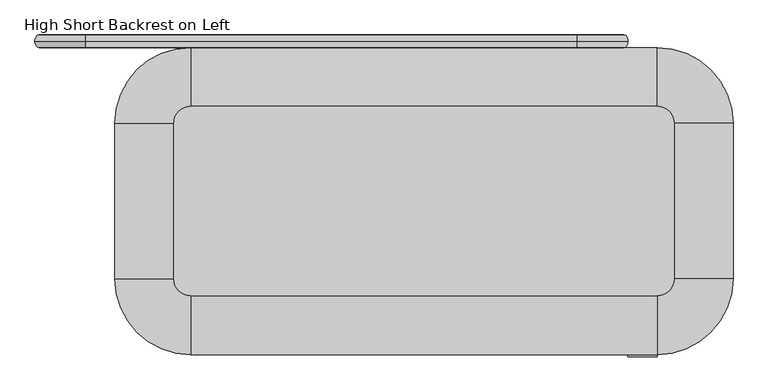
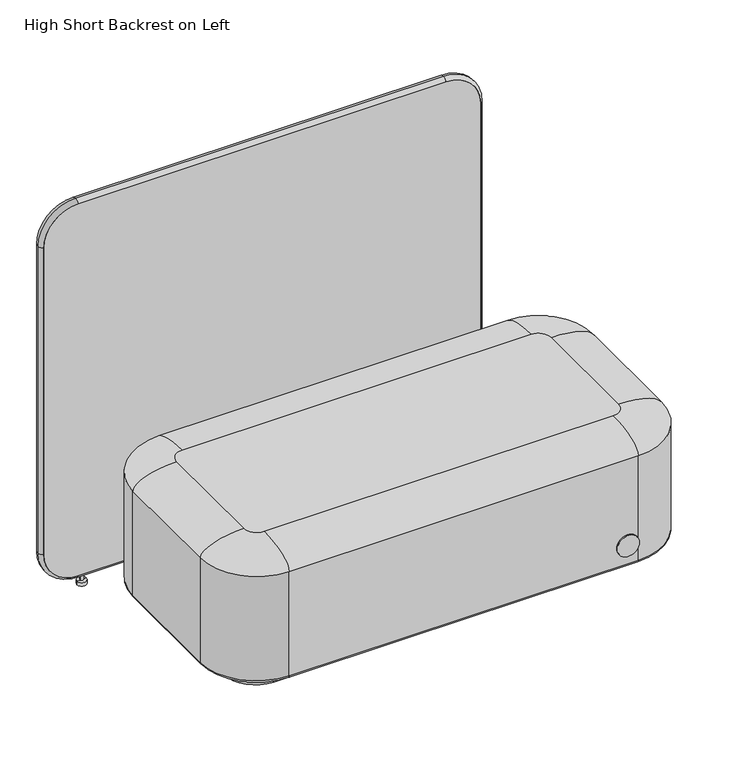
"""IFC4 building model written with IfcOpenShell, lengths in millimetres: furniture geometry, PODLounge  : High Short Backrest on Left."""

from ifc_helpers import new_model, si_unit, point, frame, frame_2d, origin, origin_with_axes, place, context, project, spatial, polyline, circle_curve, ellipse_curve, trimmed, segment, composite_curve, outline, extrude, source, transform, mapped, element, save
from ifc_brep_helpers import plane_surface, cylinder_surface, revolved_surface, extruded_surface, advanced_brep


def high_short_backrest_on_left_927d0b39(model_context):
    return source(origin(), model_context, "Body", "SolidModel", [
        advanced_brep(
        [(-769.9999916, 380.0, 12.0), (-800.0000084, 380.0, 12.0), (-790.0, 380.0, 12.0), (-780.0, 380.0, 12.0), (-790.0, 380.0, 37.4784241), (-780.0, 380.0, 37.4784241), (-785.0, 380.0, 37.4784241), (-785.0, 380.0, 0.0), (-800.0000084, 380.0, 0.0), (-769.9999916, 380.0, 0.0)],
        [
            (0, 1, circle_curve(frame((-785.0, 380.0, 12.0), z_axis=(0.0, 0.0, 1.0), x_axis=(-1.0, 0.0, 0.0)), 15.0000084)),
            (1, 2),
            (2, 3, circle_curve(frame((-785.0, 380.0, 12.0), z_axis=(0.0, 0.0, -1.0), x_axis=(-1.0, 0.0, 0.0)), 5.0)),
            (3, 0),
            (1, 0, circle_curve(frame((-785.0, 380.0, 12.0), z_axis=(0.0, 0.0, 1.0), x_axis=(-1.0, 0.0, 0.0)), 15.0000084)),
            (3, 2, circle_curve(frame((-785.0, 380.0, 12.0), z_axis=(0.0, 0.0, -1.0), x_axis=(-1.0, 0.0, 0.0)), 5.0)),
            (2, 4),
            (4, 5, circle_curve(frame((-785.0, 380.0, 37.4784241), z_axis=(0.0, 0.0, -1.0), x_axis=(-1.0, 0.0, 0.0)), 5.0)),
            (5, 3),
            (5, 4, circle_curve(frame((-785.0, 380.0, 37.4784241), z_axis=(0.0, 0.0, -1.0), x_axis=(-1.0, 0.0, 0.0)), 5.0)),
            (4, 6),
            (6, 5),
            (7, 8),
            (8, 9, circle_curve(frame((-785.0, 380.0, 0.0), z_axis=(0.0, 0.0, -1.0), x_axis=(-1.0, 0.0, 0.0)), 15.0000084)),
            (9, 7),
            (9, 8, circle_curve(frame((-785.0, 380.0, 0.0), z_axis=(0.0, 0.0, -1.0), x_axis=(-1.0, 0.0, 0.0)), 15.0000084)),
            (8, 1),
            (0, 9),
        ],
        [
            plane_surface(frame((-785.0, 380.0, 12.0), z_axis=(0.0, 0.0, 1.0), x_axis=(-1.0, 0.0, 0.0))),
            cylinder_surface(frame((-785.0, 380.0, 37.4784241), z_axis=(0.0, 0.0, -1.0), x_axis=(-1.0, 0.0, 0.0)), 5.0),
            plane_surface(frame((-785.0, 380.0, 37.4784241), z_axis=(0.0, 0.0, 1.0), x_axis=(-1.0, 0.0, 0.0))),
            plane_surface(frame((-785.0, 380.0, 0.0), z_axis=(0.0, 0.0, -1.0), x_axis=(-1.0, 0.0, 0.0))),
            cylinder_surface(frame((-785.0, 380.0, 37.4784241), z_axis=(0.0, 0.0, -1.0), x_axis=(-1.0, 0.0, 0.0)), 15.0000084),
        ],
        [
            (0, [[1, 2, 3, 4]]),
            (0, [[5, -4, 6, -2]]),
            (1, [[-3, 7, 8, 9]]),
            (1, [[-6, -9, 10, -7]]),
            (2, [[-8, 11, 12]]),
            (2, [[-10, -12, -11]]),
            (3, [[13, 14, 15]]),
            (3, [[-15, 16, -13]]),
            (4, [[-14, 17, -1, 18]]),
            (4, [[-16, -18, -5, -17]]),
        ],
    ),
        advanced_brep(
        [(329.9999916, 380.0, 12.0), (340.0, 380.0, 12.0), (350.0, 380.0, 12.0), (360.0000084, 380.0, 12.0), (340.0, 380.0, 37.4784241), (350.0, 380.0, 37.4784241), (345.0, 380.0, 37.4784241), (345.0, 380.0, 0.0), (329.9999916, 380.0, 0.0), (360.0000084, 380.0, 0.0)],
        [
            (0, 1),
            (1, 2, circle_curve(frame((345.0, 380.0, 12.0), z_axis=(0.0, 0.0, -1.0), x_axis=(1.0, 0.0, 0.0)), 5.0)),
            (2, 3),
            (3, 0, circle_curve(frame((345.0, 380.0, 12.0), z_axis=(0.0, 0.0, 1.0), x_axis=(1.0, 0.0, 0.0)), 15.0000084)),
            (2, 1, circle_curve(frame((345.0, 380.0, 12.0), z_axis=(0.0, 0.0, -1.0), x_axis=(1.0, 0.0, 0.0)), 5.0)),
            (0, 3, circle_curve(frame((345.0, 380.0, 12.0), z_axis=(0.0, 0.0, 1.0), x_axis=(1.0, 0.0, 0.0)), 15.0000084)),
            (1, 4),
            (4, 5, circle_curve(frame((345.0, 380.0, 37.4784241), z_axis=(0.0, 0.0, -1.0), x_axis=(1.0, 0.0, 0.0)), 5.0)),
            (5, 2),
            (5, 4, circle_curve(frame((345.0, 380.0, 37.4784241), z_axis=(0.0, 0.0, -1.0), x_axis=(1.0, 0.0, 0.0)), 5.0)),
            (4, 6),
            (6, 5),
            (7, 8),
            (8, 9, circle_curve(frame((345.0, 380.0, 0.0), z_axis=(0.0, 0.0, -1.0), x_axis=(1.0, 0.0, 0.0)), 15.0000084)),
            (9, 7),
            (9, 8, circle_curve(frame((345.0, 380.0, 0.0), z_axis=(0.0, 0.0, -1.0), x_axis=(1.0, 0.0, 0.0)), 15.0000084)),
            (8, 0),
            (3, 9),
        ],
        [
            plane_surface(frame((345.0, 380.0, 12.0), z_axis=(0.0, 0.0, 1.0), x_axis=(1.0, 0.0, 0.0))),
            cylinder_surface(frame((345.0, 380.0, 37.4784241), z_axis=(0.0, 0.0, -1.0), x_axis=(1.0, 0.0, 0.0)), 5.0),
            plane_surface(frame((345.0, 380.0, 37.4784241), z_axis=(0.0, 0.0, 1.0), x_axis=(1.0, 0.0, 0.0))),
            plane_surface(frame((345.0, 380.0, 0.0), z_axis=(0.0, 0.0, -1.0), x_axis=(1.0, 0.0, 0.0))),
            cylinder_surface(frame((345.0, 380.0, 37.4784241), z_axis=(0.0, 0.0, -1.0), x_axis=(1.0, 0.0, 0.0)), 15.0000084),
        ],
        [
            (0, [[1, 2, 3, 4]]),
            (0, [[-3, 5, -1, 6]]),
            (1, [[7, 8, 9, -2]]),
            (1, [[-9, 10, -7, -5]]),
            (2, [[11, 12, -8]]),
            (2, [[-12, -11, -10]]),
            (3, [[13, 14, 15]]),
            (3, [[-15, 16, -13]]),
            (4, [[17, -4, 18, -14]]),
            (4, [[-18, -6, -17, -16]]),
        ],
    ),
        advanced_brep(
        [(475.0, 395.0, 1180.0), (475.0, 365.0, 1180.0), (365.0, 365.0, 1290.0), (365.0, 395.0, 1290.0), (475.0, 395.0, 150.0), (475.0, 365.0, 150.0), (365.0, 395.0, 40.0), (365.0, 365.0, 40.0), (-805.0, 395.0, 40.0), (-805.0, 365.0, 40.0), (-915.0, 395.0, 150.0), (-915.0, 365.0, 150.0), (-915.0, 395.0, 1180.0), (-915.0, 365.0, 1180.0), (-805.0, 395.0, 1290.0), (-805.0, 365.0, 1290.0), (484.9992342, 379.8143612, 1180.0), (365.0, 379.8143612, 1299.9992342), (484.9992342, 379.8143612, 150.0), (365.0, 379.8143612, 30.0007658), (-805.0, 379.8143612, 30.0007658), (-924.9992342, 379.8143612, 150.0), (-924.9992342, 379.8143612, 1180.0), (-805.0, 379.8143612, 1299.9992342)],
        [
            (0, 1),
            (1, 2, circle_curve(frame((365.0, 365.0, 1180.0), z_axis=(0.0, -1.0, 0.0), x_axis=(0.0, 0.0, 1.0)), 110.0)),
            (2, 3),
            (3, 0, circle_curve(frame((365.0, 395.0, 1180.0), z_axis=(0.0, 1.0, 0.0), x_axis=(0.0, 0.0, 1.0)), 110.0)),
            (0, 4),
            (4, 5),
            (5, 1),
            (6, 7),
            (7, 5, circle_curve(frame((365.0, 365.0, 150.0), z_axis=(0.0, -1.0, 0.0), x_axis=(1.0, 0.0, 0.0)), 110.0)),
            (4, 6, circle_curve(frame((365.0, 395.0, 150.0), z_axis=(0.0, 1.0, 0.0), x_axis=(1.0, 0.0, 0.0)), 110.0)),
            (6, 8),
            (8, 9),
            (9, 7),
            (10, 11),
            (11, 9, circle_curve(frame((-805.0, 365.0, 150.0), z_axis=(0.0, -1.0, 0.0), x_axis=(0.0, 0.0, -1.0)), 110.0)),
            (8, 10, circle_curve(frame((-805.0, 395.0, 150.0), z_axis=(0.0, 1.0, 0.0), x_axis=(0.0, 0.0, -1.0)), 110.0)),
            (10, 12),
            (12, 13),
            (13, 11),
            (14, 15),
            (15, 13, circle_curve(frame((-805.0, 365.0, 1180.0), z_axis=(0.0, -1.0, 0.0), x_axis=(-1.0, 0.0, 0.0)), 110.0)),
            (12, 14, circle_curve(frame((-805.0, 395.0, 1180.0), z_axis=(0.0, 1.0, 0.0), x_axis=(-1.0, 0.0, 0.0)), 110.0)),
            (14, 3),
            (2, 15),
            (16, 0, ellipse_curve(frame((475.0, 380.0, 1180.0), z_axis=(0.0, 0.0, 1.0), x_axis=(0.0, 1.0, 0.0)), 15.0, 10.0)),
            (3, 17, ellipse_curve(frame((365.0, 380.0, 1290.0), z_axis=(1.0, 0.0, 0.0), x_axis=(0.0, 1.0, 0.0)), 15.0, 10.0)),
            (17, 16, circle_curve(frame((365.0, 379.8143612, 1180.0), z_axis=(0.0, 1.0, 0.0), x_axis=(0.0, 0.0, 1.0)), 119.9992342)),
            (1, 16, ellipse_curve(frame((475.0, 380.0, 1180.0), z_axis=(0.0, 0.0, 1.0), x_axis=(0.0, 1.0, 0.0)), 15.0, 10.0)),
            (17, 2, ellipse_curve(frame((365.0, 380.0, 1290.0), z_axis=(1.0, 0.0, 0.0), x_axis=(0.0, 1.0, 0.0)), 15.0, 10.0)),
            (16, 18),
            (18, 4, ellipse_curve(frame((475.0, 380.0, 150.0), z_axis=(0.0, 0.0, 1.0), x_axis=(0.0, 1.0, 0.0)), 15.0, 10.0)),
            (5, 18, ellipse_curve(frame((475.0, 380.0, 150.0), z_axis=(0.0, 0.0, 1.0), x_axis=(0.0, 1.0, 0.0)), 15.0, 10.0)),
            (19, 6, ellipse_curve(frame((365.0, 380.0, 40.0), z_axis=(1.0, 0.0, 0.0), x_axis=(0.0, 1.0, 0.0)), 15.0, 10.0)),
            (18, 19, circle_curve(frame((365.0, 379.8143612, 150.0), z_axis=(0.0, 1.0, 0.0), x_axis=(1.0, 0.0, 0.0)), 119.9992342)),
            (7, 19, ellipse_curve(frame((365.0, 380.0, 40.0), z_axis=(1.0, 0.0, 0.0), x_axis=(0.0, 1.0, 0.0)), 15.0, 10.0)),
            (19, 20),
            (20, 8, ellipse_curve(frame((-805.0, 380.0, 40.0), z_axis=(1.0, 0.0, 0.0), x_axis=(0.0, 1.0, 0.0)), 15.0, 10.0)),
            (9, 20, ellipse_curve(frame((-805.0, 380.0, 40.0), z_axis=(1.0, 0.0, 0.0), x_axis=(0.0, 1.0, 0.0)), 15.0, 10.0)),
            (21, 10, ellipse_curve(frame((-915.0, 380.0, 150.0), z_axis=(0.0, 0.0, -1.0), x_axis=(0.0, 1.0, 0.0)), 15.0, 10.0)),
            (20, 21, circle_curve(frame((-805.0, 379.8143612, 150.0), z_axis=(0.0, 1.0, 0.0), x_axis=(0.0, 0.0, -1.0)), 119.9992342)),
            (11, 21, ellipse_curve(frame((-915.0, 380.0, 150.0), z_axis=(0.0, 0.0, -1.0), x_axis=(0.0, 1.0, 0.0)), 15.0, 10.0)),
            (21, 22),
            (22, 12, ellipse_curve(frame((-915.0, 380.0, 1180.0), z_axis=(0.0, 0.0, -1.0), x_axis=(0.0, 1.0, 0.0)), 15.0, 10.0)),
            (13, 22, ellipse_curve(frame((-915.0, 380.0, 1180.0), z_axis=(0.0, 0.0, -1.0), x_axis=(0.0, 1.0, 0.0)), 15.0, 10.0)),
            (23, 14, ellipse_curve(frame((-805.0, 380.0, 1290.0), z_axis=(-1.0, 0.0, 0.0), x_axis=(0.0, 1.0, 0.0)), 15.0, 10.0)),
            (22, 23, circle_curve(frame((-805.0, 379.8143612, 1180.0), z_axis=(0.0, 1.0, 0.0), x_axis=(-1.0, 0.0, 0.0)), 119.9992342)),
            (15, 23, ellipse_curve(frame((-805.0, 380.0, 1290.0), z_axis=(-1.0, 0.0, 0.0), x_axis=(0.0, 1.0, 0.0)), 15.0, 10.0)),
            (23, 17),
        ],
        [
            revolved_surface(polyline([(365.0, 365.0, 1290.0), (365.0, 395.0, 1290.0)]), (365.0, 395.0, 1180.0), (0.0, -1.0, 0.0)),
            plane_surface(frame((475.0, 365.0, 1180.0), z_axis=(-1.0, 0.0, 0.0), x_axis=(0.0, 0.0, -1.0))),
            revolved_surface(polyline([(475.0, 365.0, 150.0), (475.0, 395.0, 150.0)]), (365.0, 395.0, 150.0), (0.0, -1.0, 0.0)),
            plane_surface(frame((365.0, 365.0, 40.0), z_axis=(0.0, 0.0, 1.0), x_axis=(-1.0, 0.0, 0.0))),
            revolved_surface(polyline([(-805.0, 365.0, 40.0), (-805.0, 395.0, 40.0)]), (-805.0, 395.0, 150.0), (0.0, -1.0, 0.0)),
            plane_surface(frame((-915.0, 365.0, 150.0), z_axis=(1.0, 0.0, 0.0), x_axis=(0.0, 0.0, 1.0))),
            revolved_surface(polyline([(-915.0, 365.0, 1180.0), (-915.0, 395.0, 1180.0)]), (-805.0, 395.0, 1180.0), (0.0, -1.0, 0.0)),
            plane_surface(frame((-805.0, 365.0, 1290.0), z_axis=(0.0, 0.0, -1.0), x_axis=(1.0, 0.0, 0.0))),
            revolved_surface(trimmed(ellipse_curve(frame((365.0, 380.0, 1290.0), z_axis=(1.0, 0.0, 0.0), x_axis=(0.0, 1.0, 0.0)), 15.0, 10.0), [point((365.0, 395.0, 1290.0))], [point((365.0, 379.8143612, 1299.9992342))], True, "CARTESIAN"), (365.0, 395.0, 1180.0), (0.0, -1.0, 0.0)),
            revolved_surface(trimmed(ellipse_curve(frame((365.0, 380.0, 1290.0), z_axis=(1.0, 0.0, 0.0), x_axis=(0.0, 1.0, 0.0)), 15.0, 10.0), [point((365.0, 379.8143612, 1299.9992342))], [point((365.0, 365.0, 1290.0))], True, "CARTESIAN"), (365.0, 395.0, 1180.0), (0.0, -1.0, 0.0)),
            extruded_surface(trimmed(ellipse_curve(frame((475.0, 380.0, 1180.0), z_axis=(0.0, 0.0, -1.0), x_axis=(0.0, 1.0, 0.0)), 15.0, 10.0), [point((475.0, 395.0, 1180.0))], [point((484.9992342, 379.8143612, 1180.0))], True, "CARTESIAN"), (0.0, 0.0, -1030.0), 1030.0),
            extruded_surface(trimmed(ellipse_curve(frame((475.0, 380.0, 1180.0), z_axis=(0.0, 0.0, -1.0), x_axis=(0.0, 1.0, 0.0)), 15.0, 10.0), [point((484.9992342, 379.8143612, 1180.0))], [point((475.0, 365.0, 1180.0))], True, "CARTESIAN"), (0.0, 0.0, -1030.0), 1030.0),
            revolved_surface(trimmed(ellipse_curve(frame((475.0, 380.0, 150.0), z_axis=(0.0, 0.0, -1.0), x_axis=(0.0, 1.0, 0.0)), 15.0, 10.0), [point((475.0, 395.0, 150.0))], [point((484.9992342, 379.8143612, 150.0))], True, "CARTESIAN"), (365.0, 395.0, 150.0), (0.0, -1.0, 0.0)),
            revolved_surface(trimmed(ellipse_curve(frame((475.0, 380.0, 150.0), z_axis=(0.0, 0.0, -1.0), x_axis=(0.0, 1.0, 0.0)), 15.0, 10.0), [point((484.9992342, 379.8143612, 150.0))], [point((475.0, 365.0, 150.0))], True, "CARTESIAN"), (365.0, 395.0, 150.0), (0.0, -1.0, 0.0)),
            extruded_surface(trimmed(ellipse_curve(frame((365.0, 380.0, 40.0), z_axis=(-1.0, 0.0, 0.0), x_axis=(0.0, 1.0, 0.0)), 15.0, 10.0), [point((365.0, 395.0, 40.0))], [point((365.0, 379.8143612, 30.0007658))], True, "CARTESIAN"), (-1170.0, 0.0, 0.0), 1170.0),
            extruded_surface(trimmed(ellipse_curve(frame((365.0, 380.0, 40.0), z_axis=(-1.0, 0.0, 0.0), x_axis=(0.0, 1.0, 0.0)), 15.0, 10.0), [point((365.0, 379.8143612, 30.0007658))], [point((365.0, 365.0, 40.0))], True, "CARTESIAN"), (-1170.0, 0.0, 0.0), 1170.0),
            revolved_surface(trimmed(ellipse_curve(frame((-805.0, 380.0, 40.0), z_axis=(-1.0, 0.0, 0.0), x_axis=(0.0, 1.0, 0.0)), 15.0, 10.0), [point((-805.0, 395.0, 40.0))], [point((-805.0, 379.8143612, 30.0007658))], True, "CARTESIAN"), (-805.0, 395.0, 150.0), (0.0, -1.0, 0.0)),
            revolved_surface(trimmed(ellipse_curve(frame((-805.0, 380.0, 40.0), z_axis=(-1.0, 0.0, 0.0), x_axis=(0.0, 1.0, 0.0)), 15.0, 10.0), [point((-805.0, 379.8143612, 30.0007658))], [point((-805.0, 365.0, 40.0))], True, "CARTESIAN"), (-805.0, 395.0, 150.0), (0.0, -1.0, 0.0)),
            extruded_surface(trimmed(ellipse_curve(frame((-915.0, 380.0, 150.0), z_axis=(0.0, 0.0, 1.0), x_axis=(0.0, 1.0, 0.0)), 15.0, 10.0), [point((-915.0, 395.0, 150.0))], [point((-924.9992342, 379.8143612, 150.0))], True, "CARTESIAN"), (0.0, 0.0, 1030.0), 1030.0),
            extruded_surface(trimmed(ellipse_curve(frame((-915.0, 380.0, 150.0), z_axis=(0.0, 0.0, 1.0), x_axis=(0.0, 1.0, 0.0)), 15.0, 10.0), [point((-924.9992342, 379.8143612, 150.0))], [point((-915.0, 365.0, 150.0))], True, "CARTESIAN"), (0.0, 0.0, 1030.0), 1030.0),
            revolved_surface(trimmed(ellipse_curve(frame((-915.0, 380.0, 1180.0), z_axis=(0.0, 0.0, 1.0), x_axis=(0.0, 1.0, 0.0)), 15.0, 10.0), [point((-915.0, 395.0, 1180.0))], [point((-924.9992342, 379.8143612, 1180.0))], True, "CARTESIAN"), (-805.0, 395.0, 1180.0), (0.0, -1.0, 0.0)),
            revolved_surface(trimmed(ellipse_curve(frame((-915.0, 380.0, 1180.0), z_axis=(0.0, 0.0, 1.0), x_axis=(0.0, 1.0, 0.0)), 15.0, 10.0), [point((-924.9992342, 379.8143612, 1180.0))], [point((-915.0, 365.0, 1180.0))], True, "CARTESIAN"), (-805.0, 395.0, 1180.0), (0.0, -1.0, 0.0)),
            extruded_surface(trimmed(ellipse_curve(frame((-805.0, 380.0, 1290.0), z_axis=(1.0, 0.0, 0.0), x_axis=(0.0, 1.0, 0.0)), 15.0, 10.0), [point((-805.0, 395.0, 1290.0))], [point((-805.0, 379.8143612, 1299.9992342))], True, "CARTESIAN"), (1170.0, 0.0, 0.0), 1170.0),
            extruded_surface(trimmed(ellipse_curve(frame((-805.0, 380.0, 1290.0), z_axis=(1.0, 0.0, 0.0), x_axis=(0.0, 1.0, 0.0)), 15.0, 10.0), [point((-805.0, 379.8143612, 1299.9992342))], [point((-805.0, 365.0, 1290.0))], True, "CARTESIAN"), (1170.0, 0.0, 0.0), 1170.0),
        ],
        [
            (0, [[1, 2, 3, 4]]),
            (1, [[5, 6, 7, -1]]),
            (2, [[8, 9, -6, 10]]),
            (3, [[11, 12, 13, -8]]),
            (4, [[14, 15, -12, 16]]),
            (5, [[17, 18, 19, -14]]),
            (6, [[20, 21, -18, 22]]),
            (7, [[23, -3, 24, -20]]),
            (8, [[25, -4, 26, 27]]),
            (9, [[28, -27, 29, -2]]),
            (10, [[30, 31, -5, -25]]),
            (11, [[-7, 32, -30, -28]]),
            (12, [[33, -10, -31, 34]]),
            (13, [[35, -34, -32, -9]]),
            (14, [[36, 37, -11, -33]]),
            (15, [[-13, 38, -36, -35]]),
            (16, [[39, -16, -37, 40]]),
            (17, [[41, -40, -38, -15]]),
            (18, [[42, 43, -17, -39]]),
            (19, [[-19, 44, -42, -41]]),
            (20, [[45, -22, -43, 46]]),
            (21, [[47, -46, -44, -21]]),
            (22, [[48, -26, -23, -45]]),
            (23, [[-24, -29, -48, -47]]),
        ],
    ),
        extrude(outline(composite_curve([segment(polyline([(1290.0, 365.0), (1290.0, -805.0)]), True, "CONTINUOUS"), segment(trimmed(circle_curve(frame_2d((1180.0, -805.0)), 110.0), [point((1290.0, -805.0))], [point((1180.0, -915.0))], False, "CARTESIAN"), True, "CONTINUOUS"), segment(polyline([(1180.0, -915.0), (150.0, -915.0)]), True, "CONTINUOUS"), segment(trimmed(circle_curve(frame_2d((150.0, -805.0)), 110.0), [point((150.0, -915.0))], [point((40.0, -805.0))], False, "CARTESIAN"), True, "CONTINUOUS"), segment(polyline([(40.0, -805.0), (40.0, 365.0)]), True, "CONTINUOUS"), segment(trimmed(circle_curve(frame_2d((150.0, 365.0)), 110.0), [point((40.0, 365.0))], [point((150.0, 475.0))], False, "CARTESIAN"), True, "CONTINUOUS"), segment(polyline([(150.0, 475.0), (1180.0, 475.0)]), True, "CONTINUOUS"), segment(trimmed(circle_curve(frame_2d((1180.0, 365.0)), 110.0), [point((1180.0, 475.0))], [point((1290.0, 365.0))], False, "CARTESIAN"), True, "CONTINUOUS")], self_intersect=False)), frame((0.0, 365.0, 0.0), z_axis=(0.0, 1.0, 0.0), x_axis=(0.0, 0.0, 1.0)), (0.0, 0.0, 1.0), 30.0),
        advanced_brep(
        [(-555.0, 225.0, 460.0), (-595.0, 185.0, 460.0), (-595.0, -185.0, 460.0), (-555.0, -225.0, 460.0), (555.0, -225.0, 460.0), (595.0, -185.0, 460.0), (595.0, 185.0, 460.0), (555.0, 225.0, 460.0), (-725.0, 185.0, 50.0), (-555.0, 355.0, 50.0), (555.0, 355.0, 50.0), (725.0, 185.0, 50.0), (725.0, -185.0, 50.0), (555.0, -355.0, 50.0), (-555.0, -355.0, 50.0), (-725.0, -185.0, 50.0), (555.0, -365.0, 410.0), (555.0, -365.0, 60.0), (735.0, -185.0, 60.0), (735.0, -185.0, 410.0), (735.0, 185.0, 60.0), (735.0, 185.0, 410.0), (555.0, 365.0, 60.0), (555.0, 365.0, 410.0), (-555.0, 365.0, 60.0), (-555.0, 365.0, 410.0), (-735.0, 185.0, 410.0), (-735.0, 185.0, 60.0), (-735.0, -185.0, 60.0), (-735.0, -185.0, 410.0), (-555.0, -365.0, 410.0), (-555.0, -365.0, 60.0)],
        [
            (0, 1, circle_curve(frame((-555.0, 185.0, 460.0), z_axis=(0.0, 0.0, 1.0), x_axis=(0.0, 1.0, 0.0)), 40.0)),
            (1, 2),
            (2, 3, circle_curve(frame((-555.0, -185.0, 460.0), z_axis=(0.0, 0.0, 1.0), x_axis=(-1.0, 0.0, 0.0)), 40.0)),
            (3, 4),
            (4, 5, circle_curve(frame((555.0, -185.0, 460.0), z_axis=(0.0, 0.0, 1.0), x_axis=(0.0, -1.0, 0.0)), 40.0)),
            (5, 6),
            (6, 7, circle_curve(frame((555.0, 185.0, 460.0), z_axis=(0.0, 0.0, 1.0), x_axis=(1.0, 0.0, 0.0)), 40.0)),
            (7, 0),
            (8, 9, circle_curve(frame((-555.0, 185.0, 50.0), z_axis=(0.0, 0.0, -1.0), x_axis=(0.0, 1.0, 0.0)), 170.0)),
            (9, 10),
            (10, 11, circle_curve(frame((555.0, 185.0, 50.0), z_axis=(0.0, 0.0, -1.0), x_axis=(1.0, 0.0, 0.0)), 170.0)),
            (11, 12),
            (12, 13, circle_curve(frame((555.0, -185.0, 50.0), z_axis=(0.0, 0.0, -1.0), x_axis=(0.0, -1.0, 0.0)), 170.0)),
            (13, 14),
            (14, 15, circle_curve(frame((-555.0, -185.0, 50.0), z_axis=(0.0, 0.0, -1.0), x_axis=(-1.0, 0.0, 0.0)), 170.0)),
            (15, 8),
            (16, 17),
            (17, 18, circle_curve(frame((555.0, -185.0, 60.0), z_axis=(0.0, 0.0, 1.0), x_axis=(1.0, 0.0, 0.0)), 180.0)),
            (18, 19),
            (19, 16, circle_curve(frame((555.0, -185.0, 410.0), z_axis=(0.0, 0.0, -1.0), x_axis=(1.0, 0.0, 0.0)), 180.0)),
            (18, 20),
            (20, 21),
            (21, 19),
            (20, 22, circle_curve(frame((555.0, 185.0, 60.0), z_axis=(0.0, 0.0, 1.0), x_axis=(1.0, 0.0, 0.0)), 180.0)),
            (22, 23),
            (23, 21, circle_curve(frame((555.0, 185.0, 410.0), z_axis=(0.0, 0.0, -1.0), x_axis=(1.0, 0.0, 0.0)), 180.0)),
            (22, 24),
            (24, 25),
            (25, 23),
            (26, 27),
            (27, 28),
            (28, 29),
            (29, 26),
            (16, 30),
            (30, 31),
            (31, 17),
            (26, 25, circle_curve(frame((-555.0, 185.0, 410.0), z_axis=(0.0, 0.0, -1.0), x_axis=(1.0, 0.0, 0.0)), 180.0)),
            (24, 27, circle_curve(frame((-555.0, 185.0, 60.0), z_axis=(0.0, 0.0, 1.0), x_axis=(1.0, 0.0, 0.0)), 180.0)),
            (30, 29, circle_curve(frame((-555.0, -185.0, 410.0), z_axis=(0.0, 0.0, -1.0), x_axis=(1.0, 0.0, 0.0)), 180.0)),
            (28, 31, circle_curve(frame((-555.0, -185.0, 60.0), z_axis=(0.0, 0.0, 1.0), x_axis=(1.0, 0.0, 0.0)), 180.0)),
            (26, 1, ellipse_curve(frame((-595.0, 185.0, 410.0), z_axis=(0.0, 1.0, 0.0), x_axis=(-1.0, 0.0, 0.0)), 140.0, 50.0)),
            (0, 25, ellipse_curve(frame((-555.0, 225.0, 410.0), z_axis=(-1.0, 0.0, 0.0), x_axis=(0.0, 1.0, 0.0)), 140.0, 50.0)),
            (29, 2, ellipse_curve(frame((-595.0, -185.0, 410.0), z_axis=(0.0, 1.0, 0.0), x_axis=(-1.0, 0.0, 0.0)), 140.0, 50.0)),
            (30, 3, ellipse_curve(frame((-555.0, -225.0, 410.0), z_axis=(-1.0, 0.0, 0.0), x_axis=(0.0, -1.0, 0.0)), 140.0, 50.0)),
            (16, 4, ellipse_curve(frame((555.0, -225.0, 410.0), z_axis=(-1.0, 0.0, 0.0), x_axis=(0.0, -1.0, 0.0)), 140.0, 50.0)),
            (19, 5, ellipse_curve(frame((595.0, -185.0, 410.0), z_axis=(0.0, -1.0, 0.0), x_axis=(1.0, 0.0, 0.0)), 140.0, 50.0)),
            (21, 6, ellipse_curve(frame((595.0, 185.0, 410.0), z_axis=(0.0, -1.0, 0.0), x_axis=(1.0, 0.0, 0.0)), 140.0, 50.0)),
            (23, 7, ellipse_curve(frame((555.0, 225.0, 410.0), z_axis=(1.0, 0.0, 0.0), x_axis=(0.0, 1.0, 0.0)), 140.0, 50.0)),
            (8, 27, circle_curve(frame((-725.0, 185.0, 60.0), z_axis=(0.0, 1.0, 0.0), x_axis=(1.0, 0.0, 0.0)), 10.0)),
            (24, 9, circle_curve(frame((-555.0, 355.0, 60.0), z_axis=(-1.0, 0.0, 0.0), x_axis=(0.0, -1.0, 0.0)), 10.0)),
            (15, 28, circle_curve(frame((-725.0, -185.0, 60.0), z_axis=(0.0, 1.0, 0.0), x_axis=(1.0, 0.0, 0.0)), 10.0)),
            (14, 31, circle_curve(frame((-555.0, -355.0, 60.0), z_axis=(-1.0, 0.0, 0.0), x_axis=(0.0, 1.0, 0.0)), 10.0)),
            (13, 17, circle_curve(frame((555.0, -355.0, 60.0), z_axis=(-1.0, 0.0, 0.0), x_axis=(0.0, 1.0, 0.0)), 10.0)),
            (12, 18, circle_curve(frame((725.0, -185.0, 60.0), z_axis=(0.0, -1.0, 0.0), x_axis=(-1.0, 0.0, 0.0)), 10.0)),
            (11, 20, circle_curve(frame((725.0, 185.0, 60.0), z_axis=(0.0, -1.0, 0.0), x_axis=(-1.0, 0.0, 0.0)), 10.0)),
            (10, 22, circle_curve(frame((555.0, 355.0, 60.0), z_axis=(1.0, 0.0, 0.0), x_axis=(0.0, -1.0, 0.0)), 10.0)),
        ],
        [
            plane_surface(frame((735.0, -185.0, 460.0), z_axis=(0.0, 0.0, 1.0), x_axis=(0.0, 1.0, 0.0))),
            plane_surface(frame((735.0, -185.0, 50.0), z_axis=(0.0, 0.0, -1.0), x_axis=(0.0, -1.0, 0.0))),
            cylinder_surface(frame((555.0, -185.0, 50.0), z_axis=(0.0, 0.0, 1.0), x_axis=(1.0, 0.0, 0.0)), 180.0),
            plane_surface(frame((735.0, -185.0, 460.0), z_axis=(1.0, 0.0, 0.0), x_axis=(0.0, 0.0, -1.0))),
            cylinder_surface(frame((555.0, 185.0, 50.0), z_axis=(0.0, 0.0, 1.0), x_axis=(1.0, 0.0, 0.0)), 180.0),
            plane_surface(frame((555.0, 365.0, 460.0), z_axis=(0.0, 1.0, 0.0), x_axis=(0.0, 0.0, -1.0))),
            plane_surface(frame((-735.0, 185.0, 460.0), z_axis=(-1.0, 0.0, 0.0), x_axis=(0.0, 0.0, -1.0))),
            plane_surface(frame((-555.0, -365.0, 460.0), z_axis=(0.0, -1.0, 0.0), x_axis=(0.0, 0.0, -1.0))),
            cylinder_surface(frame((-555.0, 185.0, 50.0), z_axis=(0.0, 0.0, 1.0), x_axis=(1.0, 0.0, 0.0)), 180.0),
            cylinder_surface(frame((-555.0, -185.0, 50.0), z_axis=(0.0, 0.0, 1.0), x_axis=(1.0, 0.0, 0.0)), 180.0),
            revolved_surface(trimmed(ellipse_curve(frame((-555.0, 225.0, 410.0), z_axis=(1.0, 0.0, 0.0), x_axis=(0.0, 1.0, 0.0)), 140.0, 50.0), [point((-555.0, 365.0, 410.0))], [point((-555.0, 225.0, 460.0))], True, "CARTESIAN"), (-555.0, 185.0, 0.0), (0.0, 0.0, 1.0)),
            extruded_surface(trimmed(ellipse_curve(frame((-595.0, 185.0, 410.0), z_axis=(0.0, -1.0, 0.0), x_axis=(-1.0, 0.0, 0.0)), 140.0, 50.0), [point((-595.0, 185.0, 460.0))], [point((-735.0, 185.0, 410.0))], True, "CARTESIAN"), (0.0, -370.0, 0.0), 370.0),
            revolved_surface(trimmed(ellipse_curve(frame((-595.0, -185.0, 410.0), z_axis=(0.0, 1.0, 0.0), x_axis=(-1.0, 0.0, 0.0)), 140.0, 50.0), [point((-735.0, -185.0, 410.0))], [point((-595.0, -185.0, 460.0))], True, "CARTESIAN"), (-555.0, -185.0, 0.0), (0.0, 0.0, 1.0)),
            extruded_surface(trimmed(ellipse_curve(frame((-555.0, -225.0, 410.0), z_axis=(1.0, 0.0, 0.0), x_axis=(0.0, -1.0, 0.0)), 140.0, 50.0), [point((-555.0, -225.0, 460.0))], [point((-555.0, -365.0, 410.0))], True, "CARTESIAN"), (1110.0, 0.0, 0.0), 1110.0),
            revolved_surface(trimmed(ellipse_curve(frame((555.0, -225.0, 410.0), z_axis=(-1.0, 0.0, 0.0), x_axis=(0.0, -1.0, 0.0)), 140.0, 50.0), [point((555.0, -365.0, 410.0))], [point((555.0, -225.0, 460.0))], True, "CARTESIAN"), (555.0, -185.0, 0.0), (0.0, 0.0, 1.0)),
            extruded_surface(trimmed(ellipse_curve(frame((595.0, -185.0, 410.0), z_axis=(0.0, 1.0, 0.0), x_axis=(1.0, 0.0, 0.0)), 140.0, 50.0), [point((595.0, -185.0, 460.0))], [point((735.0, -185.0, 410.0))], True, "CARTESIAN"), (0.0, 370.0, 0.0), 370.0),
            revolved_surface(trimmed(ellipse_curve(frame((595.0, 185.0, 410.0), z_axis=(0.0, -1.0, 0.0), x_axis=(1.0, 0.0, 0.0)), 140.0, 50.0), [point((735.0, 185.0, 410.0))], [point((595.0, 185.0, 460.0))], True, "CARTESIAN"), (555.0, 185.0, 0.0), (0.0, 0.0, 1.0)),
            extruded_surface(trimmed(ellipse_curve(frame((555.0, 225.0, 410.0), z_axis=(-1.0, 0.0, 0.0), x_axis=(0.0, 1.0, 0.0)), 140.0, 50.0), [point((555.0, 225.0, 460.0))], [point((555.0, 365.0, 410.0))], True, "CARTESIAN"), (-1110.0, 0.0, 0.0), 1110.0),
            revolved_surface(trimmed(ellipse_curve(frame((-555.0, 355.0, 60.0), z_axis=(1.0, 0.0, 0.0), x_axis=(0.0, -1.0, 0.0)), 10.0, 10.0), [point((-555.0, 355.0, 50.0))], [point((-555.0, 365.0, 60.0))], True, "CARTESIAN"), (-555.0, 185.0, 0.0), (0.0, 0.0, 1.0)),
            cylinder_surface(frame((-725.0, 185.0, 60.0), z_axis=(0.0, -1.0, 0.0), x_axis=(1.0, 0.0, 0.0)), 10.0),
            revolved_surface(trimmed(ellipse_curve(frame((-725.0, -185.0, 60.0), z_axis=(0.0, 1.0, 0.0), x_axis=(1.0, 0.0, 0.0)), 10.0, 10.0), [point((-725.0, -185.0, 50.0))], [point((-735.0, -185.0, 60.0))], True, "CARTESIAN"), (-555.0, -185.0, 0.0), (0.0, 0.0, 1.0)),
            cylinder_surface(frame((-555.0, -355.0, 60.0), z_axis=(1.0, 0.0, 0.0), x_axis=(0.0, 1.0, 0.0)), 10.0),
            revolved_surface(trimmed(ellipse_curve(frame((555.0, -355.0, 60.0), z_axis=(-1.0, 0.0, 0.0), x_axis=(0.0, 1.0, 0.0)), 10.0, 10.0), [point((555.0, -355.0, 50.0))], [point((555.0, -365.0, 60.0))], True, "CARTESIAN"), (555.0, -185.0, 0.0), (0.0, 0.0, 1.0)),
            cylinder_surface(frame((725.0, -185.0, 60.0), z_axis=(0.0, 1.0, 0.0), x_axis=(-1.0, 0.0, 0.0)), 10.0),
            revolved_surface(trimmed(ellipse_curve(frame((725.0, 185.0, 60.0), z_axis=(0.0, -1.0, 0.0), x_axis=(-1.0, 0.0, 0.0)), 10.0, 10.0), [point((725.0, 185.0, 50.0))], [point((735.0, 185.0, 60.0))], True, "CARTESIAN"), (555.0, 185.0, 0.0), (0.0, 0.0, 1.0)),
            cylinder_surface(frame((555.0, 355.0, 60.0), z_axis=(-1.0, 0.0, 0.0), x_axis=(0.0, -1.0, 0.0)), 10.0),
        ],
        [
            (0, [[1, 2, 3, 4, 5, 6, 7, 8]]),
            (1, [[9, 10, 11, 12, 13, 14, 15, 16]]),
            (2, [[17, 18, 19, 20]]),
            (3, [[-19, 21, 22, 23]]),
            (4, [[-22, 24, 25, 26]]),
            (5, [[-25, 27, 28, 29]]),
            (6, [[30, 31, 32, 33]]),
            (7, [[-17, 34, 35, 36]]),
            (8, [[-30, 37, -28, 38]]),
            (9, [[-35, 39, -32, 40]]),
            (10, [[41, -1, 42, -37]]),
            (11, [[-41, -33, 43, -2]]),
            (12, [[-43, -39, 44, -3]]),
            (13, [[-44, -34, 45, -4]]),
            (14, [[-45, -20, 46, -5]]),
            (15, [[-46, -23, 47, -6]]),
            (16, [[-47, -26, 48, -7]]),
            (17, [[-42, -8, -48, -29]]),
            (18, [[49, -38, 50, -9]]),
            (19, [[-49, -16, 51, -31]]),
            (20, [[-51, -15, 52, -40]]),
            (21, [[-52, -14, 53, -36]]),
            (22, [[-53, -13, 54, -18]]),
            (23, [[-54, -12, 55, -21]]),
            (24, [[-55, -11, 56, -24]]),
            (25, [[-50, -27, -56, -10]]),
        ],
    ),
        extrude(outline(composite_curve([segment(polyline([(565.0, -295.0), (-565.0, -295.0)]), True, "CONTINUOUS"), segment(trimmed(circle_curve(frame_2d((-565.0, -195.0)), 100.0), [point((-565.0, -295.0))], [point((-665.0, -195.0))], False, "CARTESIAN"), True, "CONTINUOUS"), segment(polyline([(-665.0, -195.0), (-665.0, 195.0)]), True, "CONTINUOUS"), segment(trimmed(circle_curve(frame_2d((-565.0, 195.0)), 100.0), [point((-665.0, 195.0))], [point((-565.0, 295.0))], False, "CARTESIAN"), True, "CONTINUOUS"), segment(polyline([(-565.0, 295.0), (565.0, 295.0)]), True, "CONTINUOUS"), segment(trimmed(circle_curve(frame_2d((565.0, 195.0)), 100.0), [point((565.0, 295.0))], [point((665.0, 195.0))], False, "CARTESIAN"), True, "CONTINUOUS"), segment(polyline([(665.0, 195.0), (665.0, -195.0)]), True, "CONTINUOUS"), segment(trimmed(circle_curve(frame_2d((565.0, -195.0)), 100.0), [point((665.0, -195.0))], [point((565.0, -295.0))], False, "CARTESIAN"), True, "CONTINUOUS")], self_intersect=False)), origin_with_axes(), (0.0, 0.0, 1.0), 50.0),
        extrude(outline(composite_curve([segment(trimmed(circle_curve(frame_2d((122.8625944, 520.0)), 35.0), [point((122.8625944, 555.0))], [point((122.8625944, 485.0))], False, "CARTESIAN"), True, "CONTINUOUS"), segment(trimmed(circle_curve(frame_2d((122.8625944, 520.0)), 35.0), [point((122.8625944, 485.0))], [point((122.8625944, 555.0))], False, "CARTESIAN"), True, "CONTINUOUS")], self_intersect=False)), frame((0.0, -370.0, 0.0), z_axis=(0.0, 1.0, 0.0), x_axis=(0.0, 0.0, 1.0)), (0.0, 0.0, 1.0), 5.0),
    ])


if __name__ == "__main__":
    model = new_model("IFC4")
    model_context = context("Model", 3, world=origin())
    ifc_project = project(units=[si_unit("LENGTHUNIT", "METRE", prefix="MILLI")], contexts=[model_context])
    site = spatial("IfcSite", under=ifc_project)
    building = spatial("IfcBuilding", under=site)
    placement = place(None, origin())
    high_short_backrest_on_left_shape = high_short_backrest_on_left_927d0b39(model_context)
    element("IfcFurniture", 1, ObjectType="PODLounge  : High Short Backrest on Left", at=placement, inside=building, context=model_context, shape_type="MappedRepresentation", body=[
        mapped(high_short_backrest_on_left_shape, transform((0.0, 0.0, 0.0), x_axis=(1.0, 0.0, 0.0), y_axis=(0.0, 1.0, 0.0), z_axis=(0.0, 0.0, 1.0))),
    ])
    save(model, "model.ifc")
